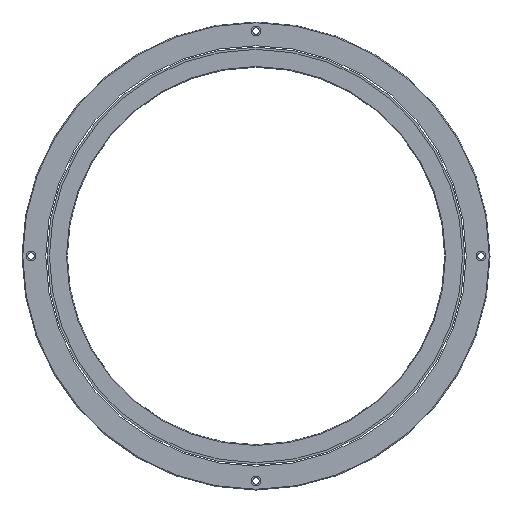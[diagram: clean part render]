
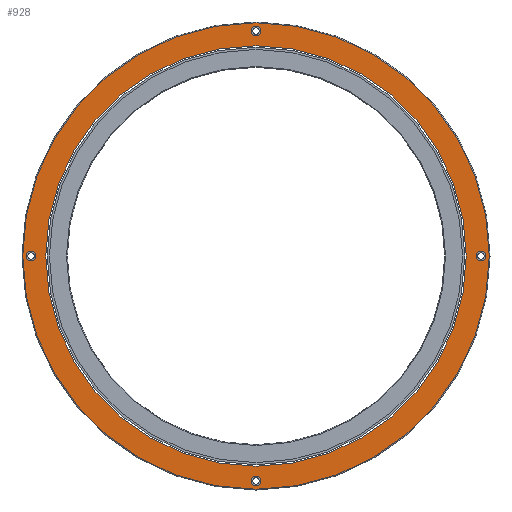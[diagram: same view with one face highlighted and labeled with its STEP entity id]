
A CAD part, front view. The second image highlights one B-rep face of the part: STEP entity #928.
In plain terms, the highlighted planar face has unit normal (0, -1, 0).
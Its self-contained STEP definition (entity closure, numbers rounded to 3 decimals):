
#43=CARTESIAN_POINT('',(0.,0.,0.));
#44=DIRECTION('',(0.,-1.,0.));
#45=DIRECTION('',(-1.,0.,0.));
#46=AXIS2_PLACEMENT_3D('',#43,#44,#45);
#48=CARTESIAN_POINT('',(0.,0.,0.));
#49=DIRECTION('',(0.,1.,0.));
#50=DIRECTION('',(-1.,0.,0.));
#51=AXIS2_PLACEMENT_3D('',#48,#49,#50);
#53=CARTESIAN_POINT('',(-149.,0.,0.));
#54=DIRECTION('',(0.,1.,0.));
#55=DIRECTION('',(1.,0.,0.));
#56=AXIS2_PLACEMENT_3D('',#53,#54,#55);
#58=CARTESIAN_POINT('',(-149.,0.,0.));
#59=DIRECTION('',(0.,1.,0.));
#60=DIRECTION('',(-1.,0.,0.));
#61=AXIS2_PLACEMENT_3D('',#58,#59,#60);
#63=CARTESIAN_POINT('',(0.,0.,149.));
#64=DIRECTION('',(0.,1.,0.));
#65=DIRECTION('',(0.,0.,-1.));
#66=AXIS2_PLACEMENT_3D('',#63,#64,#65);
#68=CARTESIAN_POINT('',(0.,0.,149.));
#69=DIRECTION('',(0.,1.,0.));
#70=DIRECTION('',(0.,0.,1.));
#71=AXIS2_PLACEMENT_3D('',#68,#69,#70);
#73=CARTESIAN_POINT('',(149.,0.,0.));
#74=DIRECTION('',(0.,1.,0.));
#75=DIRECTION('',(-1.,0.,0.));
#76=AXIS2_PLACEMENT_3D('',#73,#74,#75);
#78=CARTESIAN_POINT('',(149.,0.,0.));
#79=DIRECTION('',(0.,1.,0.));
#80=DIRECTION('',(1.,0.,0.));
#81=AXIS2_PLACEMENT_3D('',#78,#79,#80);
#83=CARTESIAN_POINT('',(0.,0.,-149.));
#84=DIRECTION('',(0.,1.,0.));
#85=DIRECTION('',(0.,0.,1.));
#86=AXIS2_PLACEMENT_3D('',#83,#84,#85);
#88=CARTESIAN_POINT('',(0.,0.,-149.));
#89=DIRECTION('',(0.,1.,0.));
#90=DIRECTION('',(0.,0.,-1.));
#91=AXIS2_PLACEMENT_3D('',#88,#89,#90);
#93=CARTESIAN_POINT('',(0.,0.,0.));
#94=DIRECTION('',(0.,1.,0.));
#95=DIRECTION('',(-1.,0.,0.));
#96=AXIS2_PLACEMENT_3D('',#93,#94,#95);
#98=CARTESIAN_POINT('',(0.,0.,0.));
#99=DIRECTION('',(0.,1.,0.));
#100=DIRECTION('',(1.,0.,0.));
#101=AXIS2_PLACEMENT_3D('',#98,#99,#100);
#751=CARTESIAN_POINT('',(-145.75,0.,0.));
#752=VERTEX_POINT('',#751);
#753=CARTESIAN_POINT('',(-152.25,0.,0.));
#754=VERTEX_POINT('',#753);
#763=CARTESIAN_POINT('',(0.,0.,145.75));
#764=VERTEX_POINT('',#763);
#765=CARTESIAN_POINT('',(0.,0.,152.25));
#766=VERTEX_POINT('',#765);
#775=CARTESIAN_POINT('',(145.75,0.,0.));
#776=VERTEX_POINT('',#775);
#777=CARTESIAN_POINT('',(152.25,0.,0.));
#778=VERTEX_POINT('',#777);
#787=CARTESIAN_POINT('',(0.,0.,-145.75));
#788=VERTEX_POINT('',#787);
#789=CARTESIAN_POINT('',(0.,0.,-152.25));
#790=VERTEX_POINT('',#789);
#808=CARTESIAN_POINT('',(-139.25,0.,0.));
#810=VERTEX_POINT('',#808);
#812=CARTESIAN_POINT('',(139.25,0.,0.));
#814=VERTEX_POINT('',#812);
#827=CARTESIAN_POINT('',(-154.5,0.,0.));
#828=CARTESIAN_POINT('',(154.5,0.,0.));
#829=VERTEX_POINT('',#827);
#830=VERTEX_POINT('',#828);
#889=CARTESIAN_POINT('',(0.,0.,0.));
#890=DIRECTION('',(0.,1.,0.));
#891=DIRECTION('',(1.,0.,0.));
#892=AXIS2_PLACEMENT_3D('',#889,#890,#891);
#893=PLANE('',#892);
#895=ORIENTED_EDGE('',*,*,#894,.T.);
#897=ORIENTED_EDGE('',*,*,#896,.T.);
#898=EDGE_LOOP('',(#895,#897));
#899=FACE_OUTER_BOUND('',#898,.F.);
#900=ORIENTED_EDGE('',*,*,#868,.F.);
#901=ORIENTED_EDGE('',*,*,#884,.F.);
#902=EDGE_LOOP('',(#900,#901));
#903=FACE_BOUND('',#902,.F.);
#905=ORIENTED_EDGE('',*,*,#904,.F.);
#907=ORIENTED_EDGE('',*,*,#906,.F.);
#908=EDGE_LOOP('',(#905,#907));
#909=FACE_BOUND('',#908,.F.);
#911=ORIENTED_EDGE('',*,*,#910,.F.);
#913=ORIENTED_EDGE('',*,*,#912,.F.);
#914=EDGE_LOOP('',(#911,#913));
#915=FACE_BOUND('',#914,.F.);
#917=ORIENTED_EDGE('',*,*,#916,.F.);
#919=ORIENTED_EDGE('',*,*,#918,.F.);
#920=EDGE_LOOP('',(#917,#919));
#921=FACE_BOUND('',#920,.F.);
#923=ORIENTED_EDGE('',*,*,#922,.T.);
#925=ORIENTED_EDGE('',*,*,#924,.F.);
#926=EDGE_LOOP('',(#923,#925));
#927=FACE_BOUND('',#926,.F.);
#47=CIRCLE('',#46,139.25);
#52=CIRCLE('',#51,139.25);
#57=CIRCLE('',#56,3.25);
#62=CIRCLE('',#61,3.25);
#67=CIRCLE('',#66,3.25);
#72=CIRCLE('',#71,3.25);
#77=CIRCLE('',#76,3.25);
#82=CIRCLE('',#81,3.25);
#87=CIRCLE('',#86,3.25);
#92=CIRCLE('',#91,3.25);
#97=CIRCLE('',#96,154.5);
#102=CIRCLE('',#101,154.5);
#868=EDGE_CURVE('',#752,#754,#57,.T.);
#884=EDGE_CURVE('',#754,#752,#62,.T.);
#894=EDGE_CURVE('',#829,#830,#97,.T.);
#896=EDGE_CURVE('',#830,#829,#102,.T.);
#904=EDGE_CURVE('',#764,#766,#67,.T.);
#906=EDGE_CURVE('',#766,#764,#72,.T.);
#910=EDGE_CURVE('',#776,#778,#77,.T.);
#912=EDGE_CURVE('',#778,#776,#82,.T.);
#916=EDGE_CURVE('',#788,#790,#87,.T.);
#918=EDGE_CURVE('',#790,#788,#92,.T.);
#922=EDGE_CURVE('',#810,#814,#47,.T.);
#924=EDGE_CURVE('',#810,#814,#52,.T.);
#928=ADVANCED_FACE('',(#899,#903,#909,#915,#921,#927),#893,.F.);
